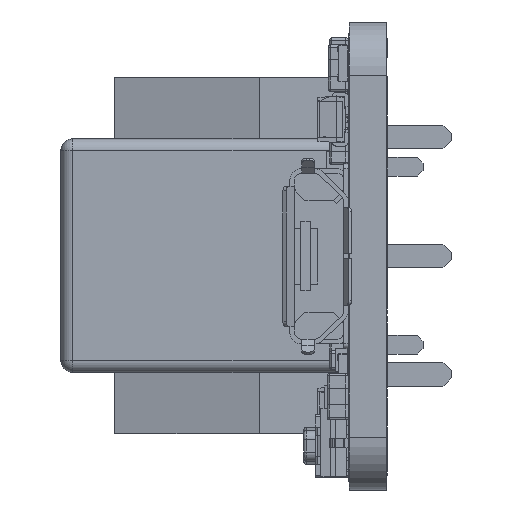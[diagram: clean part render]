
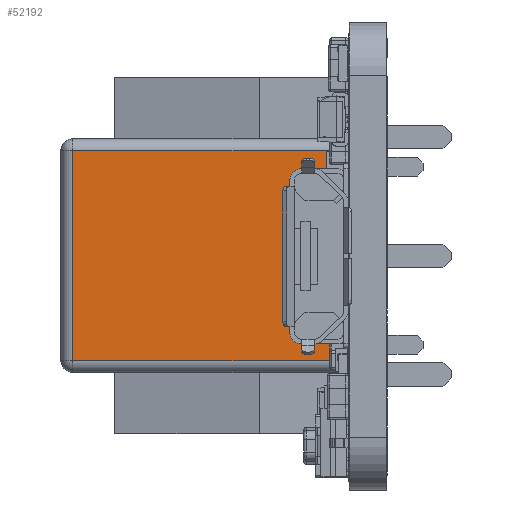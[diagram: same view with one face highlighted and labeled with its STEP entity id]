
A CAD part, left-side view. The second image highlights one B-rep face of the part: STEP entity #52192.
In plain terms, the highlighted planar face has unit normal (-1, 0, 0).
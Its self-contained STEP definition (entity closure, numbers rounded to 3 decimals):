
#19158 = AXIS2_PLACEMENT_3D ( 'NONE', #84326, #84327, #84332 ) ;
#36911 = EDGE_LOOP ( 'NONE', ( #79816, #79936, #79910, #79844 ) ) ;
#52192 = ADVANCED_FACE ( 'NONE', ( #95507 ), #84357, .F. ) ;
#59740 = EDGE_CURVE ( 'NONE', #73425, #73411, #162436, .T. ) ;
#59949 = EDGE_CURVE ( 'NONE', #73409, #73425, #162525, .T. ) ;
#59972 = EDGE_CURVE ( 'NONE', #73423, #73409, #162510, .T. ) ;
#60050 = EDGE_CURVE ( 'NONE', #73411, #73423, #162588, .T. ) ;
#73409 = VERTEX_POINT ( 'NONE', #178630 ) ;
#73411 = VERTEX_POINT ( 'NONE', #178607 ) ;
#73423 = VERTEX_POINT ( 'NONE', #178611 ) ;
#73425 = VERTEX_POINT ( 'NONE', #178603 ) ;
#79816 = ORIENTED_EDGE ( 'NONE', *, *, #59972, .T. ) ;
#79844 = ORIENTED_EDGE ( 'NONE', *, *, #60050, .T. ) ;
#79910 = ORIENTED_EDGE ( 'NONE', *, *, #59740, .T. ) ;
#79936 = ORIENTED_EDGE ( 'NONE', *, *, #59949, .T. ) ;
#84326 = CARTESIAN_POINT ( 'NONE',  ( -14.25, 12.3, -5. ) ) ;
#84327 = DIRECTION ( 'NONE',  ( 1., 0., 0. ) ) ;
#84332 = DIRECTION ( 'NONE',  ( 0., 0., -1. ) ) ;
#84357 = PLANE ( 'NONE',  #19158 ) ;
#95507 = FACE_OUTER_BOUND ( 'NONE', #36911, .T. ) ;
#162380 = VECTOR ( 'NONE', #177628, 1000. ) ;
#162436 = LINE ( 'NONE', #177591, #162380 ) ;
#162479 = VECTOR ( 'NONE', #177963, 1000. ) ;
#162510 = LINE ( 'NONE', #177955, #162479 ) ;
#162525 = LINE ( 'NONE', #177953, #162527 ) ;
#162527 = VECTOR ( 'NONE', #177926, 1000. ) ;
#162588 = LINE ( 'NONE', #177996, #162599 ) ;
#162599 = VECTOR ( 'NONE', #177998, 1000. ) ;
#177591 = CARTESIAN_POINT ( 'NONE',  ( -14.25, 11.8, -5. ) ) ;
#177628 = DIRECTION ( 'NONE',  ( 0., 0., -1. ) ) ;
#177926 = DIRECTION ( 'NONE',  ( 0., 1., 0. ) ) ;
#177953 = CARTESIAN_POINT ( 'NONE',  ( -14.25, 12.3, 4.5 ) ) ;
#177955 = CARTESIAN_POINT ( 'NONE',  ( -14.25, 0., -5. ) ) ;
#177963 = DIRECTION ( 'NONE',  ( 0., 0., 1. ) ) ;
#177996 = CARTESIAN_POINT ( 'NONE',  ( -14.25, 12.3, -4.5 ) ) ;
#177998 = DIRECTION ( 'NONE',  ( 0., -1., 0. ) ) ;
#178603 = CARTESIAN_POINT ( 'NONE',  ( -14.25, 11.8, 4.5 ) ) ;
#178607 = CARTESIAN_POINT ( 'NONE',  ( -14.25, 11.8, -4.5 ) ) ;
#178611 = CARTESIAN_POINT ( 'NONE',  ( -14.25, 0., -4.5 ) ) ;
#178630 = CARTESIAN_POINT ( 'NONE',  ( -14.25, 0., 4.5 ) ) ;
